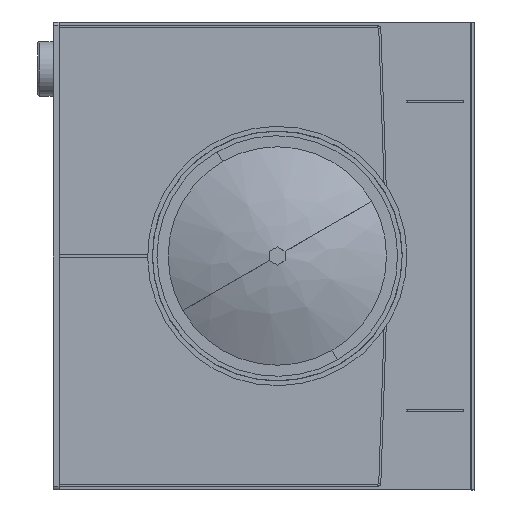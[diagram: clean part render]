
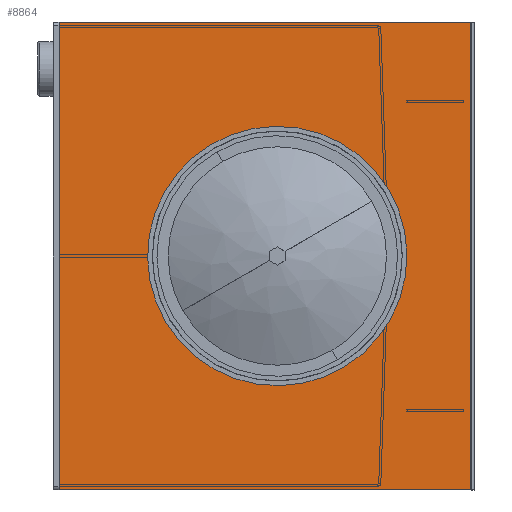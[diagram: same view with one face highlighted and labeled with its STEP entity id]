
A CAD part, left-side view. The second image highlights one B-rep face of the part: STEP entity #8864.
In plain terms, the highlighted planar face has unit normal (-1, 0, 0) as drawn and (1, 0, 0) by its records, which use the part's own axes.
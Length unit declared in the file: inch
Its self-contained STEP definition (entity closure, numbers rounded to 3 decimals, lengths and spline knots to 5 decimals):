
#13 = CARTESIAN_POINT ( 'NONE',  ( 0., 130.5353, -15. ) ) ;
#443 = PLANE ( 'NONE',  #1380 ) ;
#498 = VERTEX_POINT ( 'NONE', #13 ) ;
#525 = CIRCLE ( 'NONE', #3399, 7. ) ;
#578 = DIRECTION ( 'NONE',  ( 0., 1., 0. ) ) ;
#879 = CIRCLE ( 'NONE', #1537, 7. ) ;
#984 = ORIENTED_EDGE ( 'NONE', *, *, #5271, .F. ) ;
#1275 = CARTESIAN_POINT ( 'NONE',  ( 0., 104.1603, 15. ) ) ;
#1380 = AXIS2_PLACEMENT_3D ( 'NONE', #8250, #8967, #8996 ) ;
#1537 = AXIS2_PLACEMENT_3D ( 'NONE', #2616, #4615, #5429 ) ;
#1643 = ORIENTED_EDGE ( 'NONE', *, *, #4860, .F. ) ;
#1654 = VECTOR ( 'NONE', #578, 39.37008 ) ;
#1883 = CARTESIAN_POINT ( 'NONE',  ( 0., 116.5448, 0. ) ) ;
#1924 = VERTEX_POINT ( 'NONE', #4359 ) ;
#1962 = VERTEX_POINT ( 'NONE', #7339 ) ;
#2106 = VERTEX_POINT ( 'NONE', #6425 ) ;
#2393 = EDGE_LOOP ( 'NONE', ( #8296, #8345, #2872, #5860 ) ) ;
#2616 = CARTESIAN_POINT ( 'NONE',  ( 0., 116.5448, 0. ) ) ;
#2872 = ORIENTED_EDGE ( 'NONE', *, *, #6922, .T. ) ;
#2962 = LINE ( 'NONE', #6461, #4599 ) ;
#3032 = DIRECTION ( 'NONE',  ( 0., -1., 0. ) ) ;
#3287 = LINE ( 'NONE', #1275, #7009 ) ;
#3399 = AXIS2_PLACEMENT_3D ( 'NONE', #1883, #6036, #5391 ) ;
#3485 = EDGE_LOOP ( 'NONE', ( #1643, #984 ) ) ;
#3497 = CARTESIAN_POINT ( 'NONE',  ( 0., 103.9103, -15. ) ) ;
#3500 = LINE ( 'NONE', #3497, #1654 ) ;
#3591 = VERTEX_POINT ( 'NONE', #7775 ) ;
#4359 = CARTESIAN_POINT ( 'NONE',  ( 0., 116.5448, -7. ) ) ;
#4563 = EDGE_CURVE ( 'NONE', #7154, #2106, #2962, .T. ) ;
#4599 = VECTOR ( 'NONE', #3032, 39.37008 ) ;
#4615 = DIRECTION ( 'NONE',  ( 1., 0., 0. ) ) ;
#4860 = EDGE_CURVE ( 'NONE', #1924, #3591, #879, .T. ) ;
#5019 = EDGE_CURVE ( 'NONE', #2106, #1962, #3287, .T. ) ;
#5271 = EDGE_CURVE ( 'NONE', #3591, #1924, #525, .T. ) ;
#5325 = EDGE_CURVE ( 'NONE', #1962, #498, #3500, .T. ) ;
#5391 = DIRECTION ( 'NONE',  ( 0., 0., -1. ) ) ;
#5429 = DIRECTION ( 'NONE',  ( 0., 0., -1. ) ) ;
#5860 = ORIENTED_EDGE ( 'NONE', *, *, #4563, .T. ) ;
#5919 = FACE_BOUND ( 'NONE', #3485, .T. ) ;
#6036 = DIRECTION ( 'NONE',  ( 1., 0., 0. ) ) ;
#6181 = LINE ( 'NONE', #7005, #8231 ) ;
#6189 = DIRECTION ( 'NONE',  ( 0., 0., -1. ) ) ;
#6425 = CARTESIAN_POINT ( 'NONE',  ( 0., 104.1603, 15. ) ) ;
#6461 = CARTESIAN_POINT ( 'NONE',  ( 0., 103.9103, 15. ) ) ;
#6705 = CARTESIAN_POINT ( 'NONE',  ( 0., 130.5353, 15. ) ) ;
#6922 = EDGE_CURVE ( 'NONE', #498, #7154, #6181, .T. ) ;
#7005 = CARTESIAN_POINT ( 'NONE',  ( 0., 130.5353, 15. ) ) ;
#7009 = VECTOR ( 'NONE', #6189, 39.37008 ) ;
#7154 = VERTEX_POINT ( 'NONE', #6705 ) ;
#7339 = CARTESIAN_POINT ( 'NONE',  ( 0., 104.1603, -15. ) ) ;
#7547 = FACE_OUTER_BOUND ( 'NONE', #2393, .T. ) ;
#7775 = CARTESIAN_POINT ( 'NONE',  ( 0., 116.5448, 7. ) ) ;
#8231 = VECTOR ( 'NONE', #8415, 39.37008 ) ;
#8250 = CARTESIAN_POINT ( 'NONE',  ( 0., 0., 0. ) ) ;
#8296 = ORIENTED_EDGE ( 'NONE', *, *, #5019, .T. ) ;
#8345 = ORIENTED_EDGE ( 'NONE', *, *, #5325, .T. ) ;
#8415 = DIRECTION ( 'NONE',  ( 0., 0., 1. ) ) ;
#8864 = ADVANCED_FACE ( 'NONE', ( #5919, #7547 ), #443, .F. ) ;
#8967 = DIRECTION ( 'NONE',  ( -1., 0., 0. ) ) ;
#8996 = DIRECTION ( 'NONE',  ( 0., 0., 1. ) ) ;
